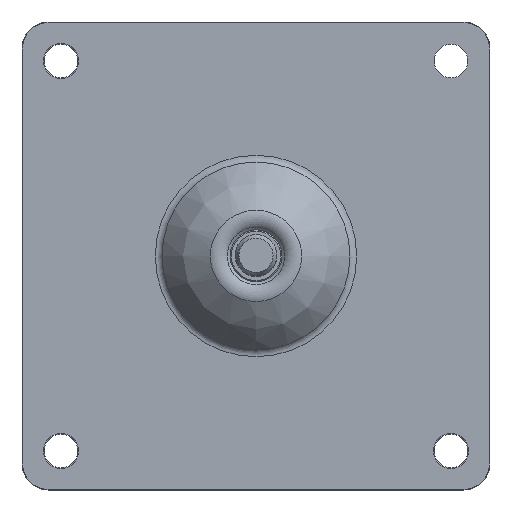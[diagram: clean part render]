
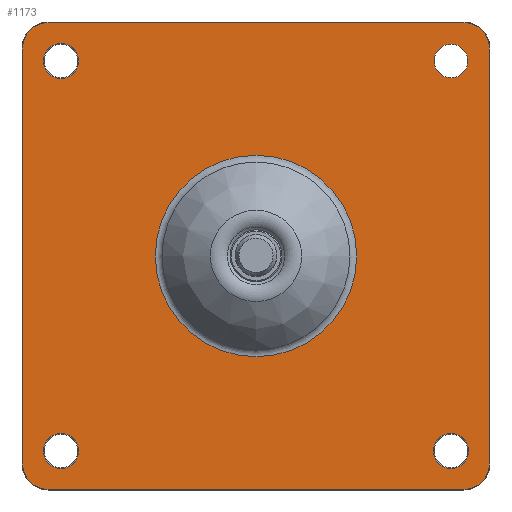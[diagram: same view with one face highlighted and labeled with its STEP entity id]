
A CAD part, top view. The second image highlights one B-rep face of the part: STEP entity #1173.
In plain terms, the highlighted planar face has unit normal (0, 0, 1).
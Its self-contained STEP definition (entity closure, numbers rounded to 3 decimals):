
#44=LINE('',#1930,#103);
#45=LINE('',#1934,#104);
#46=LINE('',#1938,#105);
#47=LINE('',#1942,#106);
#103=VECTOR('',#1507,1.);
#104=VECTOR('',#1510,1.);
#105=VECTOR('',#1513,1.);
#106=VECTOR('',#1516,1.);
#201=FACE_BOUND('',#311,.T.);
#202=FACE_BOUND('',#312,.T.);
#203=FACE_BOUND('',#313,.T.);
#204=FACE_BOUND('',#314,.T.);
#205=FACE_BOUND('',#315,.T.);
#228=FACE_OUTER_BOUND('',#310,.T.);
#310=EDGE_LOOP('',(#823,#824,#825,#826,#827,#828,#829,#830));
#311=EDGE_LOOP('',(#831));
#312=EDGE_LOOP('',(#832));
#313=EDGE_LOOP('',(#833));
#314=EDGE_LOOP('',(#834));
#315=EDGE_LOOP('',(#835));
#408=CIRCLE('',#1290,9.75);
#409=CIRCLE('',#1291,9.75);
#410=CIRCLE('',#1292,9.75);
#411=CIRCLE('',#1293,9.75);
#412=CIRCLE('',#1294,6.5);
#413=CIRCLE('',#1295,38.724);
#414=CIRCLE('',#1296,6.75);
#415=CIRCLE('',#1297,6.75);
#416=CIRCLE('',#1298,6.75);
#516=VERTEX_POINT('',#1928);
#517=VERTEX_POINT('',#1929);
#518=VERTEX_POINT('',#1931);
#519=VERTEX_POINT('',#1933);
#520=VERTEX_POINT('',#1935);
#521=VERTEX_POINT('',#1937);
#522=VERTEX_POINT('',#1939);
#523=VERTEX_POINT('',#1941);
#524=VERTEX_POINT('',#1944);
#525=VERTEX_POINT('',#1946);
#526=VERTEX_POINT('',#1948);
#527=VERTEX_POINT('',#1950);
#528=VERTEX_POINT('',#1952);
#633=EDGE_CURVE('',#516,#517,#44,.F.);
#634=EDGE_CURVE('',#517,#518,#408,.T.);
#635=EDGE_CURVE('',#518,#519,#45,.F.);
#636=EDGE_CURVE('',#519,#520,#409,.T.);
#637=EDGE_CURVE('',#520,#521,#46,.T.);
#638=EDGE_CURVE('',#521,#522,#410,.T.);
#639=EDGE_CURVE('',#522,#523,#47,.T.);
#640=EDGE_CURVE('',#523,#516,#411,.T.);
#641=EDGE_CURVE('',#524,#524,#412,.T.);
#642=EDGE_CURVE('',#525,#525,#413,.T.);
#643=EDGE_CURVE('',#526,#526,#414,.F.);
#644=EDGE_CURVE('',#527,#527,#415,.F.);
#645=EDGE_CURVE('',#528,#528,#416,.F.);
#823=ORIENTED_EDGE('',*,*,#633,.T.);
#824=ORIENTED_EDGE('',*,*,#634,.T.);
#825=ORIENTED_EDGE('',*,*,#635,.T.);
#826=ORIENTED_EDGE('',*,*,#636,.T.);
#827=ORIENTED_EDGE('',*,*,#637,.T.);
#828=ORIENTED_EDGE('',*,*,#638,.T.);
#829=ORIENTED_EDGE('',*,*,#639,.T.);
#830=ORIENTED_EDGE('',*,*,#640,.T.);
#831=ORIENTED_EDGE('',*,*,#641,.F.);
#832=ORIENTED_EDGE('',*,*,#642,.T.);
#833=ORIENTED_EDGE('',*,*,#643,.T.);
#834=ORIENTED_EDGE('',*,*,#644,.T.);
#835=ORIENTED_EDGE('',*,*,#645,.T.);
#1138=PLANE('',#1289);
#1173=ADVANCED_FACE('',(#228,#201,#202,#203,#204,#205),#1138,.T.);
#1289=AXIS2_PLACEMENT_3D('',#1927,#1505,#1506);
#1290=AXIS2_PLACEMENT_3D('',#1932,#1508,#1509);
#1291=AXIS2_PLACEMENT_3D('',#1936,#1511,#1512);
#1292=AXIS2_PLACEMENT_3D('',#1940,#1514,#1515);
#1293=AXIS2_PLACEMENT_3D('',#1943,#1517,#1518);
#1294=AXIS2_PLACEMENT_3D('',#1945,#1519,#1520);
#1295=AXIS2_PLACEMENT_3D('',#1947,#1521,#1522);
#1296=AXIS2_PLACEMENT_3D('',#1949,#1523,#1524);
#1297=AXIS2_PLACEMENT_3D('',#1951,#1525,#1526);
#1298=AXIS2_PLACEMENT_3D('',#1953,#1527,#1528);
#1505=DIRECTION('center_axis',(0.,0.,1.));
#1506=DIRECTION('ref_axis',(1.,0.,0.));
#1507=DIRECTION('',(1.,0.,0.));
#1508=DIRECTION('center_axis',(0.,0.,1.));
#1509=DIRECTION('ref_axis',(1.,0.,0.));
#1510=DIRECTION('',(0.,1.,0.));
#1511=DIRECTION('center_axis',(0.,0.,1.));
#1512=DIRECTION('ref_axis',(1.,0.,0.));
#1513=DIRECTION('',(1.,0.,0.));
#1514=DIRECTION('center_axis',(0.,0.,1.));
#1515=DIRECTION('ref_axis',(1.,0.,0.));
#1516=DIRECTION('',(0.,1.,0.));
#1517=DIRECTION('center_axis',(0.,0.,1.));
#1518=DIRECTION('ref_axis',(1.,0.,0.));
#1519=DIRECTION('center_axis',(0.,0.,1.));
#1520=DIRECTION('ref_axis',(1.,0.,0.));
#1521=DIRECTION('center_axis',(0.,0.,-1.));
#1522=DIRECTION('ref_axis',(0.,1.,0.));
#1523=DIRECTION('center_axis',(0.,0.,1.));
#1524=DIRECTION('ref_axis',(1.,0.,0.));
#1525=DIRECTION('center_axis',(0.,0.,1.));
#1526=DIRECTION('ref_axis',(1.,0.,0.));
#1527=DIRECTION('center_axis',(0.,0.,1.));
#1528=DIRECTION('ref_axis',(1.,0.,0.));
#1927=CARTESIAN_POINT('Origin',(-90.,-90.,5.));
#1928=CARTESIAN_POINT('',(80.,89.75,5.));
#1929=CARTESIAN_POINT('',(-80.,89.75,5.));
#1930=CARTESIAN_POINT('',(-90.,89.75,5.));
#1931=CARTESIAN_POINT('',(-89.75,80.,5.));
#1932=CARTESIAN_POINT('Origin',(-80.,80.,5.));
#1933=CARTESIAN_POINT('',(-89.75,-80.,5.));
#1934=CARTESIAN_POINT('',(-89.75,-80.,5.));
#1935=CARTESIAN_POINT('',(-80.,-89.75,5.));
#1936=CARTESIAN_POINT('Origin',(-80.,-80.,5.));
#1937=CARTESIAN_POINT('',(80.,-89.75,5.));
#1938=CARTESIAN_POINT('',(80.,-89.75,5.));
#1939=CARTESIAN_POINT('',(89.75,-80.,5.));
#1940=CARTESIAN_POINT('Origin',(80.,-80.,5.));
#1941=CARTESIAN_POINT('',(89.75,80.,5.));
#1942=CARTESIAN_POINT('',(89.75,-90.,5.));
#1943=CARTESIAN_POINT('Origin',(80.,80.,5.));
#1944=CARTESIAN_POINT('',(75.,68.5,5.));
#1945=CARTESIAN_POINT('Origin',(75.,75.,5.));
#1946=CARTESIAN_POINT('',(0.,-38.724,5.));
#1947=CARTESIAN_POINT('Origin',(0.,0.,5.));
#1948=CARTESIAN_POINT('',(68.25,-75.,5.));
#1949=CARTESIAN_POINT('Origin',(75.,-75.,5.));
#1950=CARTESIAN_POINT('',(-81.75,-75.,5.));
#1951=CARTESIAN_POINT('Origin',(-75.,-75.,5.));
#1952=CARTESIAN_POINT('',(-81.75,75.,5.));
#1953=CARTESIAN_POINT('Origin',(-75.,75.,5.));
